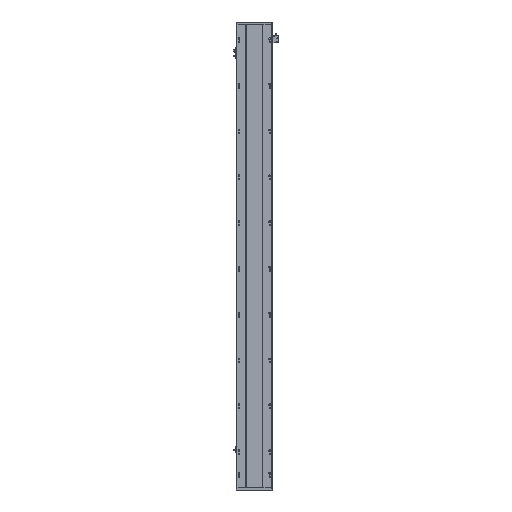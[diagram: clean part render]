
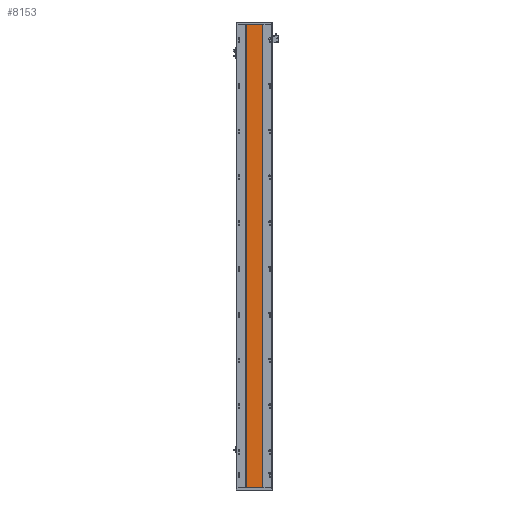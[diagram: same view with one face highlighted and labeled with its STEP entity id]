
A CAD part, front view. The second image highlights one B-rep face of the part: STEP entity #8153.
In plain terms, the highlighted planar face has unit normal (0, -1, 0).
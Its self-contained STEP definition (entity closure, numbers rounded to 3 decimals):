
#707 = ORIENTED_EDGE ( 'NONE', *, *, #4573, .F. ) ;
#1831 = VECTOR ( 'NONE', #17042, 1000. ) ;
#3527 = EDGE_CURVE ( 'NONE', #19216, #4232, #38772, .T. ) ;
#4126 = DIRECTION ( 'NONE',  ( 1., 0., 0. ) ) ;
#4232 = VERTEX_POINT ( 'NONE', #40055 ) ;
#4573 = EDGE_CURVE ( 'NONE', #5523, #19216, #33656, .T. ) ;
#4734 = CARTESIAN_POINT ( 'NONE',  ( 129.288, 16.9, 0. ) ) ;
#5523 = VERTEX_POINT ( 'NONE', #26137 ) ;
#6644 = VECTOR ( 'NONE', #4126, 1000. ) ;
#7060 = CARTESIAN_POINT ( 'NONE',  ( 129.288, 16.9, 2188. ) ) ;
#8153 = ADVANCED_FACE ( 'NONE', ( #14428 ), #17919, .F. ) ;
#10232 = VECTOR ( 'NONE', #10725, 1000. ) ;
#10725 = DIRECTION ( 'NONE',  ( 0., 0., -1. ) ) ;
#14428 = FACE_OUTER_BOUND ( 'NONE', #25664, .T. ) ;
#15101 = DIRECTION ( 'NONE',  ( -1., 0., 0. ) ) ;
#15197 = LINE ( 'NONE', #26504, #6644 ) ;
#15749 = LINE ( 'NONE', #7060, #10232 ) ;
#17042 = DIRECTION ( 'NONE',  ( 1., 0., 0. ) ) ;
#17372 = ORIENTED_EDGE ( 'NONE', *, *, #22227, .T. ) ;
#17919 = PLANE ( 'NONE',  #26680 ) ;
#18573 = VECTOR ( 'NONE', #21519, 1000. ) ;
#19216 = VERTEX_POINT ( 'NONE', #37693 ) ;
#20102 = VERTEX_POINT ( 'NONE', #4734 ) ;
#21172 = CARTESIAN_POINT ( 'NONE',  ( 205.288, 16.9, 2188. ) ) ;
#21519 = DIRECTION ( 'NONE',  ( 0., 0., -1. ) ) ;
#22227 = EDGE_CURVE ( 'NONE', #5523, #20102, #15749, .T. ) ;
#23190 = EDGE_CURVE ( 'NONE', #20102, #4232, #15197, .T. ) ;
#25664 = EDGE_LOOP ( 'NONE', ( #31790, #37515, #707, #17372 ) ) ;
#26137 = CARTESIAN_POINT ( 'NONE',  ( 129.288, 16.9, 2188. ) ) ;
#26504 = CARTESIAN_POINT ( 'NONE',  ( 205.288, 16.9, 0. ) ) ;
#26680 = AXIS2_PLACEMENT_3D ( 'NONE', #21172, #30927, #15101 ) ;
#29498 = CARTESIAN_POINT ( 'NONE',  ( 129.288, 16.9, 2188. ) ) ;
#30927 = DIRECTION ( 'NONE',  ( 0., 1., 0. ) ) ;
#31790 = ORIENTED_EDGE ( 'NONE', *, *, #23190, .T. ) ;
#33656 = LINE ( 'NONE', #29498, #1831 ) ;
#37515 = ORIENTED_EDGE ( 'NONE', *, *, #3527, .F. ) ;
#37693 = CARTESIAN_POINT ( 'NONE',  ( 205.288, 16.9, 2188. ) ) ;
#38772 = LINE ( 'NONE', #40375, #18573 ) ;
#40055 = CARTESIAN_POINT ( 'NONE',  ( 205.288, 16.9, 0. ) ) ;
#40375 = CARTESIAN_POINT ( 'NONE',  ( 205.288, 16.9, 2188. ) ) ;
